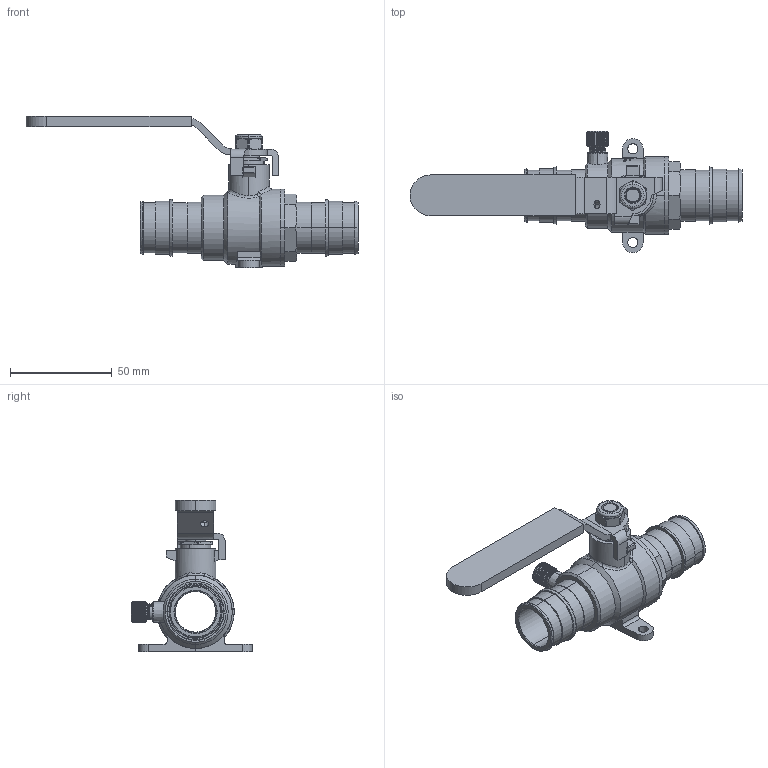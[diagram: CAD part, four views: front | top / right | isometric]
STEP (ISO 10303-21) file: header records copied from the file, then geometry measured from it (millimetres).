
FILE_DESCRIPTION(('Open CASCADE Model'),'2;1');
FILE_NAME('Open CASCADE Shape Model','2021-12-14T08:51:24',('Author'),( 'Open CASCADE'),'Open CASCADE STEP processor 7.3','Open CASCADE 7.3' ,'Unknown');
FILE_SCHEMA(('AUTOMOTIVE_DESIGN { 1 0 10303 214 1 1 1 1 }'));
Length unit declared in the file: millimetre
Products named in the file (14): Open CASCADE STEP translator 7.3 1; Open CASCADE STEP translator 7.3 1.1; Open CASCADE STEP translator 7.3 1.2; Open CASCADE STEP translator 7.3 1.3; Open CASCADE STEP translator 7.3 1.4; Open CASCADE STEP translator 7.3 1.5; Open CASCADE STEP translator 7.3 1.6; Open CASCADE STEP translator 7.3 1.7; Open CASCADE STEP translator 7.3 1.8; Open CASCADE STEP translator 7.3 1.9; Open CASCADE STEP translator 7.3 1.10; Open CASCADE STEP translator 7.3 1.11; Open CASCADE STEP translator 7.3 1.12; Open CASCADE STEP translator 7.3 1.13
Assembly tree (13 placements, depth 2):
  Open CASCADE STEP translator 7.3 1
    Open CASCADE STEP translator 7.3 1.1
    Open CASCADE STEP translator 7.3 1.2
    Open CASCADE STEP translator 7.3 1.3
    Open CASCADE STEP translator 7.3 1.4
    Open CASCADE STEP translator 7.3 1.5
    Open CASCADE STEP translator 7.3 1.6
    Open CASCADE STEP translator 7.3 1.7
    Open CASCADE STEP translator 7.3 1.8
    Open CASCADE STEP translator 7.3 1.9
    Open CASCADE STEP translator 7.3 1.10
    Open CASCADE STEP translator 7.3 1.11
    Open CASCADE STEP translator 7.3 1.12
    Open CASCADE STEP translator 7.3 1.13
Bounding box: 163.1 x 59.5 x 74.21 mm (x, y, z)
Volume: 57585.3 mm3; surface area: 44004.8 mm2
Topology: 13 solids, 13 shells, 931 faces, 2508 edges, 1640 vertices
Faces by surface type: cylinder 407, plane 267, bspline 125, cone 96, torus 30, sphere 6
Entity records: 129096 total; most frequent: CARTESIAN_POINT 84566, DIRECTION 6605, ORIENTED_EDGE 5012, PCURVE 5012, DEFINITIONAL_REPRESENTATION 5012, LINE 3406, VECTOR 3406, B_SPLINE_CURVE_WITH_KNOTS 2858
